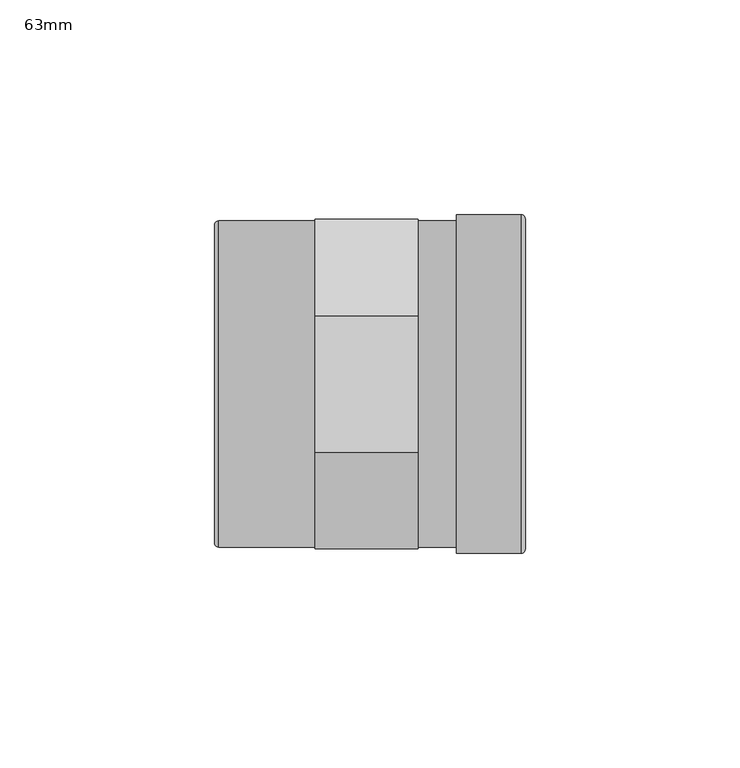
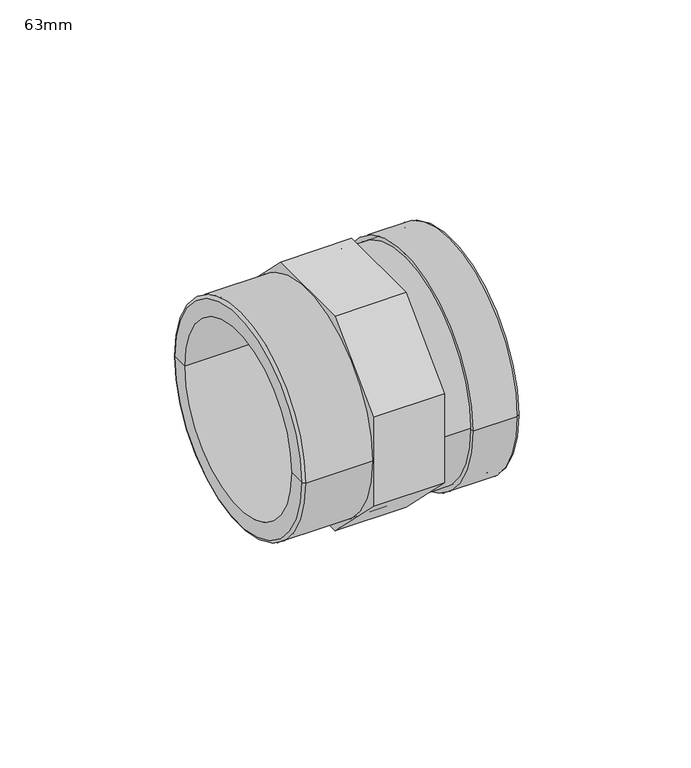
"""IFC4 building model written with IfcOpenShell, lengths in millimetres: pipe fitting geometry, Durapipe_PipeFitting_PVC_PlainThreadedSockets : 63mm."""

from ifc_helpers import new_model, si_unit, point, frame, origin, origin_2d, place, context, project, spatial, polyline, circle_curve, ellipse_curve, trimmed, segment, composite_curve, outline, extrude, source, transform, mapped, element, save
from ifc_brep_helpers import plane_surface, cylinder_surface, revolved_surface, advanced_brep


def pipe_fitting_63mm_4394316e(model_context):
    return source(origin(), model_context, "Body", "SolidModel", [
        extrude(outline(polyline([(-38.4, 15.9058008), (-15.9058008, 38.4), (15.9058008, 38.4), (38.4, 15.9058008), (38.4, -15.9058008), (15.9058008, -38.4), (-15.9058008, -38.4), (-38.4, -15.9058008), (-38.4, 15.9058008)]), holes=[composite_curve([segment(trimmed(circle_curve(origin_2d(), 38.0), [point((-38.0, 0.0))], [point((38.0, 0.0))], True, "CARTESIAN"), True, "CONTINUOUS"), segment(trimmed(circle_curve(origin_2d(), 38.0), [point((38.0, 0.0))], [point((-38.0, 0.0))], True, "CARTESIAN"), True, "CONTINUOUS")], self_intersect=False)]), frame((-18.15, 0.0, 0.0), z_axis=(1.0, 0.0, 0.0), x_axis=(0.0, 1.0, 0.0)), (0.0, 0.0, 1.0), 24.0),
        advanced_brep(
        [(27.35, -38.0, 0.0), (27.35, 38.0, 0.0), (27.35, 31.5, 0.0), (27.35, -31.5, 0.0), (-40.65, -38.0, 0.0), (-40.65, 38.0, 0.0), (-41.65, -31.5, 0.0), (-41.65, 31.5, 0.0), (-41.65, 37.0, 0.0), (-41.65, -37.0, 0.0), (-3.65, -31.5, 0.0), (-3.65, 31.5, 0.0), (-3.65, -27.5, 0.0), (-3.65, 27.5, 0.0), (3.65, -27.5, 0.0), (3.65, 27.5, 0.0), (3.65, -31.5, 0.0), (3.65, 31.5, 0.0)],
        [
            (0, 1, circle_curve(frame((27.35, 0.0, 0.0), z_axis=(1.0, 0.0, 0.0), x_axis=(0.0, 1.0, 0.0)), 38.0)),
            (1, 2),
            (2, 3, circle_curve(frame((27.35, 0.0, 0.0), z_axis=(-1.0, 0.0, 0.0), x_axis=(0.0, 1.0, 0.0)), 31.5)),
            (3, 0),
            (1, 0, circle_curve(frame((27.35, 0.0, 0.0), z_axis=(1.0, 0.0, 0.0), x_axis=(0.0, 1.0, 0.0)), 38.0)),
            (3, 2, circle_curve(frame((27.35, 0.0, 0.0), z_axis=(-1.0, 0.0, 0.0), x_axis=(0.0, 1.0, 0.0)), 31.5)),
            (4, 5, circle_curve(frame((-40.65, 0.0, 0.0), z_axis=(1.0, 0.0, 0.0), x_axis=(0.0, 1.0, 0.0)), 38.0)),
            (5, 1),
            (0, 4),
            (5, 4, circle_curve(frame((-40.65, 0.0, 0.0), z_axis=(1.0, 0.0, 0.0), x_axis=(0.0, 1.0, 0.0)), 38.0)),
            (6, 7, circle_curve(frame((-41.65, 0.0, 0.0), z_axis=(1.0, 0.0, 0.0), x_axis=(0.0, 1.0, 0.0)), 31.5)),
            (7, 8),
            (8, 9, circle_curve(frame((-41.65, 0.0, 0.0), z_axis=(-1.0, 0.0, 0.0), x_axis=(0.0, 1.0, 0.0)), 37.0)),
            (9, 6),
            (7, 6, circle_curve(frame((-41.65, 0.0, 0.0), z_axis=(1.0, 0.0, 0.0), x_axis=(0.0, 1.0, 0.0)), 31.5)),
            (9, 8, circle_curve(frame((-41.65, 0.0, 0.0), z_axis=(-1.0, 0.0, 0.0), x_axis=(0.0, 1.0, 0.0)), 37.0)),
            (10, 11, circle_curve(frame((-3.65, 0.0, 0.0), z_axis=(1.0, 0.0, 0.0), x_axis=(0.0, 1.0, 0.0)), 31.5)),
            (11, 7),
            (6, 10),
            (11, 10, circle_curve(frame((-3.65, 0.0, 0.0), z_axis=(1.0, 0.0, 0.0), x_axis=(0.0, 1.0, 0.0)), 31.5)),
            (12, 13, circle_curve(frame((-3.65, 0.0, 0.0), z_axis=(1.0, 0.0, 0.0), x_axis=(0.0, 1.0, 0.0)), 27.5)),
            (13, 11),
            (10, 12),
            (13, 12, circle_curve(frame((-3.65, 0.0, 0.0), z_axis=(1.0, 0.0, 0.0), x_axis=(0.0, 1.0, 0.0)), 27.5)),
            (14, 15, circle_curve(frame((3.65, 0.0, 0.0), z_axis=(1.0, 0.0, 0.0), x_axis=(0.0, 1.0, 0.0)), 27.5)),
            (15, 13),
            (12, 14),
            (15, 14, circle_curve(frame((3.65, 0.0, 0.0), z_axis=(1.0, 0.0, 0.0), x_axis=(0.0, 1.0, 0.0)), 27.5)),
            (16, 17, circle_curve(frame((3.65, 0.0, 0.0), z_axis=(1.0, 0.0, 0.0), x_axis=(0.0, 1.0, 0.0)), 31.5)),
            (17, 15),
            (14, 16),
            (17, 16, circle_curve(frame((3.65, 0.0, 0.0), z_axis=(1.0, 0.0, 0.0), x_axis=(0.0, 1.0, 0.0)), 31.5)),
            (2, 17),
            (16, 3),
            (8, 5, circle_curve(frame((-40.65, 37.0, 0.0), z_axis=(0.0, 0.0, -1.0), x_axis=(1.0, 0.0, 0.0)), 1.0)),
            (4, 9, circle_curve(frame((-40.65, -37.0, 0.0), z_axis=(0.0, 0.0, -1.0), x_axis=(1.0, 0.0, 0.0)), 1.0)),
        ],
        [
            plane_surface(frame((27.35, 0.0, 0.0), z_axis=(1.0, 0.0, 0.0), x_axis=(0.0, 1.0, 0.0))),
            cylinder_surface(frame((-57.2346764, 0.0, 0.0), z_axis=(-1.0, 0.0, 0.0), x_axis=(0.0, 1.0, 0.0)), 38.0),
            plane_surface(frame((-41.65, 0.0, 0.0), z_axis=(-1.0, 0.0, 0.0), x_axis=(0.0, 1.0, 0.0))),
            revolved_surface(polyline([(-41.65, 31.5, 0.0), (-3.6499999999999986, 31.5, 0.0)]), (-57.2346764, 0.0, 0.0), (-1.0, 0.0, 0.0)),
            plane_surface(frame((-3.65, 0.0, 0.0), z_axis=(-1.0, 0.0, 0.0), x_axis=(0.0, 1.0, 0.0))),
            revolved_surface(polyline([(-3.6499999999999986, 27.5, 0.0), (3.6499999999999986, 27.5, 0.0)]), (-57.2346764, 0.0, 0.0), (-1.0, 0.0, 0.0)),
            plane_surface(frame((3.65, 0.0, 0.0), z_axis=(1.0, 0.0, 0.0), x_axis=(0.0, 1.0, 0.0))),
            revolved_surface(polyline([(3.6499999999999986, 31.5, 0.0), (27.35000000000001, 31.5, 0.0)]), (-57.2346764, 0.0, 0.0), (-1.0, 0.0, 0.0)),
            revolved_surface(trimmed(ellipse_curve(frame((-40.65, 37.0, 0.0), z_axis=(0.0, 0.0, 1.0), x_axis=(1.0, 0.0, 0.0)), 1.0, 1.0), [point((-40.65, 38.0, 0.0))], [point((-41.65, 37.0, 0.0))], True, "CARTESIAN"), (-57.2346764, 0.0, 0.0), (-1.0, 0.0, 0.0)),
        ],
        [
            (0, [[1, 2, 3, 4]]),
            (0, [[5, -4, 6, -2]]),
            (1, [[7, 8, -1, 9]]),
            (1, [[10, -9, -5, -8]]),
            (2, [[11, 12, 13, 14]]),
            (2, [[15, -14, 16, -12]]),
            (3, [[17, 18, -11, 19]]),
            (3, [[20, -19, -15, -18]]),
            (4, [[21, 22, -17, 23]]),
            (4, [[24, -23, -20, -22]]),
            (5, [[25, 26, -21, 27]]),
            (5, [[28, -27, -24, -26]]),
            (6, [[29, 30, -25, 31]]),
            (6, [[32, -31, -28, -30]]),
            (7, [[-3, 33, -29, 34]]),
            (7, [[-6, -34, -32, -33]]),
            (8, [[-13, 35, -7, 36]]),
            (8, [[-16, -36, -10, -35]]),
        ],
    ),
        advanced_brep(
        [(14.85, -38.0, 0.0), (14.85, 38.0, 0.0), (14.85, 39.5, 0.0), (14.85, -39.5, 0.0), (27.35, -38.0, 0.0), (27.35, 38.0, 0.0), (27.35, -33.0, 0.0), (27.35, 33.0, 0.0), (30.85, -33.0, 0.0), (30.85, 33.0, 0.0), (30.85, -38.5, 0.0), (30.85, 38.5, 0.0), (29.85, 39.5, 0.0), (29.85, -39.5, 0.0)],
        [
            (0, 1, circle_curve(frame((14.85, 0.0, 0.0), z_axis=(1.0, 0.0, 0.0), x_axis=(0.0, 1.0, 0.0)), 38.0)),
            (1, 2),
            (2, 3, circle_curve(frame((14.85, 0.0, 0.0), z_axis=(-1.0, 0.0, 0.0), x_axis=(0.0, 1.0, 0.0)), 39.5)),
            (3, 0),
            (1, 0, circle_curve(frame((14.85, 0.0, 0.0), z_axis=(1.0, 0.0, 0.0), x_axis=(0.0, 1.0, 0.0)), 38.0)),
            (3, 2, circle_curve(frame((14.85, 0.0, 0.0), z_axis=(-1.0, 0.0, 0.0), x_axis=(0.0, 1.0, 0.0)), 39.5)),
            (4, 5, circle_curve(frame((27.35, 0.0, 0.0), z_axis=(1.0, 0.0, 0.0), x_axis=(0.0, 1.0, 0.0)), 38.0)),
            (5, 1),
            (0, 4),
            (5, 4, circle_curve(frame((27.35, 0.0, 0.0), z_axis=(1.0, 0.0, 0.0), x_axis=(0.0, 1.0, 0.0)), 38.0)),
            (6, 7, circle_curve(frame((27.35, 0.0, 0.0), z_axis=(1.0, 0.0, 0.0), x_axis=(0.0, 1.0, 0.0)), 33.0)),
            (7, 5),
            (4, 6),
            (7, 6, circle_curve(frame((27.35, 0.0, 0.0), z_axis=(1.0, 0.0, 0.0), x_axis=(0.0, 1.0, 0.0)), 33.0)),
            (8, 9, circle_curve(frame((30.85, 0.0, 0.0), z_axis=(1.0, 0.0, 0.0), x_axis=(0.0, 1.0, 0.0)), 33.0)),
            (9, 7),
            (6, 8),
            (9, 8, circle_curve(frame((30.85, 0.0, 0.0), z_axis=(1.0, 0.0, 0.0), x_axis=(0.0, 1.0, 0.0)), 33.0)),
            (10, 11, circle_curve(frame((30.85, 0.0, 0.0), z_axis=(1.0, 0.0, 0.0), x_axis=(0.0, 1.0, 0.0)), 38.5)),
            (11, 9),
            (8, 10),
            (11, 10, circle_curve(frame((30.85, 0.0, 0.0), z_axis=(1.0, 0.0, 0.0), x_axis=(0.0, 1.0, 0.0)), 38.5)),
            (2, 12),
            (12, 13, circle_curve(frame((29.85, 0.0, 0.0), z_axis=(-1.0, 0.0, 0.0), x_axis=(0.0, 1.0, 0.0)), 39.5)),
            (13, 3),
            (13, 12, circle_curve(frame((29.85, 0.0, 0.0), z_axis=(-1.0, 0.0, 0.0), x_axis=(0.0, 1.0, 0.0)), 39.5)),
            (12, 11, circle_curve(frame((29.85, 38.5, 0.0), z_axis=(0.0, 0.0, -1.0), x_axis=(1.0, 0.0, 0.0)), 1.0)),
            (10, 13, circle_curve(frame((29.85, -38.5, 0.0), z_axis=(0.0, 0.0, -1.0), x_axis=(1.0, 0.0, 0.0)), 1.0)),
        ],
        [
            plane_surface(frame((14.85, 0.0, 0.0), z_axis=(-1.0, 0.0, 0.0), x_axis=(0.0, 1.0, 0.0))),
            revolved_surface(polyline([(14.850000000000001, 38.0, 0.0), (27.35, 38.0, 0.0)]), (36.7537641, 0.0, 0.0), (-1.0, 0.0, 0.0)),
            plane_surface(frame((27.35, 0.0, 0.0), z_axis=(-1.0, 0.0, 0.0), x_axis=(0.0, 1.0, 0.0))),
            revolved_surface(polyline([(27.35, 33.0, 0.0), (30.85, 33.0, 0.0)]), (36.7537641, 0.0, 0.0), (-1.0, 0.0, 0.0)),
            plane_surface(frame((30.85, 0.0, 0.0), z_axis=(1.0, 0.0, 0.0), x_axis=(0.0, 1.0, 0.0))),
            cylinder_surface(frame((36.7537641, 0.0, 0.0), z_axis=(-1.0, 0.0, 0.0), x_axis=(0.0, 1.0, 0.0)), 39.5),
            revolved_surface(trimmed(ellipse_curve(frame((29.85, 38.5, 0.0), z_axis=(0.0, 0.0, 1.0), x_axis=(1.0, 0.0, 0.0)), 1.0, 1.0), [point((30.85, 38.5, 0.0))], [point((29.85, 39.5, 0.0))], True, "CARTESIAN"), (36.7537641, 0.0, 0.0), (-1.0, 0.0, 0.0)),
        ],
        [
            (0, [[1, 2, 3, 4]]),
            (0, [[5, -4, 6, -2]]),
            (1, [[7, 8, -1, 9]]),
            (1, [[10, -9, -5, -8]]),
            (2, [[11, 12, -7, 13]]),
            (2, [[14, -13, -10, -12]]),
            (3, [[15, 16, -11, 17]]),
            (3, [[18, -17, -14, -16]]),
            (4, [[19, 20, -15, 21]]),
            (4, [[22, -21, -18, -20]]),
            (5, [[-3, 23, 24, 25]]),
            (5, [[-6, -25, 26, -23]]),
            (6, [[-24, 27, -19, 28]]),
            (6, [[-26, -28, -22, -27]]),
        ],
    ),
    ])


if __name__ == "__main__":
    model = new_model("IFC4")
    model_context = context("Model", 3, world=origin())
    ifc_project = project(units=[si_unit("LENGTHUNIT", "METRE", prefix="MILLI")], contexts=[model_context])
    site = spatial("IfcSite", under=ifc_project)
    building = spatial("IfcBuilding", under=site)
    placement = place(None, origin())
    pipe_fitting_63mm_shape = pipe_fitting_63mm_4394316e(model_context)
    element("IfcPipeFitting", 1, ObjectType="Durapipe_PipeFitting_PVC_PlainThreadedSockets : 63mm", at=placement, inside=building, context=model_context, shape_type="MappedRepresentation", body=[
        mapped(pipe_fitting_63mm_shape, transform((0.0, 0.0, 0.0), x_axis=(1.0, 0.0, 0.0), y_axis=(0.0, 1.0, 0.0), z_axis=(0.0, 0.0, 1.0))),
    ])
    save(model, "model.ifc")
